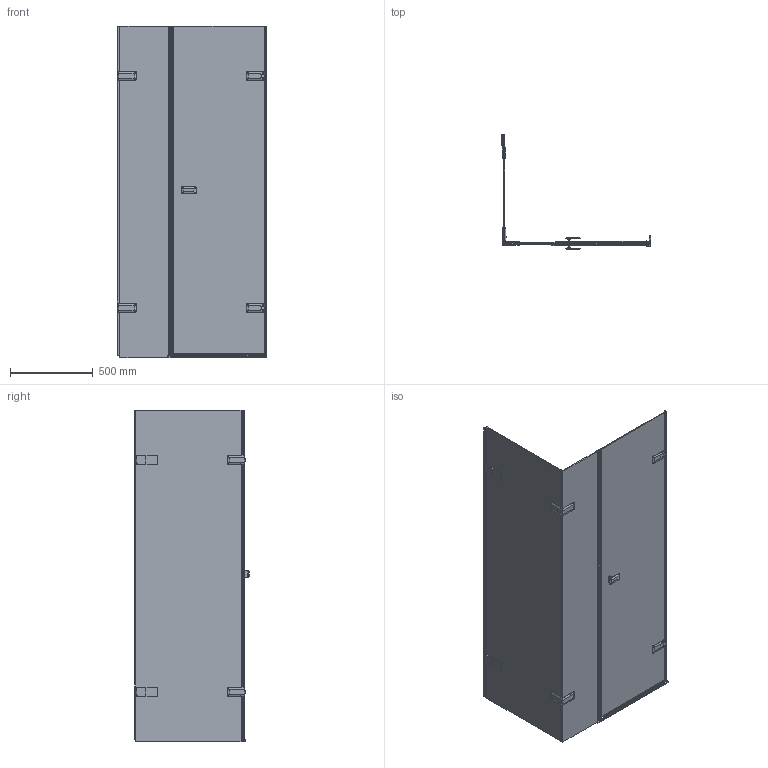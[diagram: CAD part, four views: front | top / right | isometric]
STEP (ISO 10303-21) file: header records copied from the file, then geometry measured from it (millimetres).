
FILE_DESCRIPTION(/* description */ (''),/* implementation_level */ '2;1');
FILE_NAME(/* name */ 'E:\Работа\Сергей\Душевые кабинки\! Работа\36\TREND SQUARE GK-883PGS1-2722\TREND SQUARE GK-883PGS1-2722 правая модель\TREND SQUARE GK-883PGS1-2722 ПРАВАЯ-3D.stp',/* time_stamp */ '2018-02-16T21:42:47+03:00',/* author */ ('PC'),/* organization */ (''),/* preprocessor_version */ 'ST-DEVELOPER v15.2',/* originating_system */ 'Autodesk Inventor 2014',/* authorisation */ '');
FILE_SCHEMA (('AUTOMOTIVE_DESIGN { 1 0 10303 214 3 1 1 }'));
Length unit declared in the file: millimetre
Products named in the file (1): TREND SQUARE GK-883PGS1-2722 \X2\041F0420041004120410042F
\X0\-3D
Bounding box: 903.6 x 689.96 x 2001 mm (x, y, z)
Volume: 19571729.6 mm3; surface area: 6674216.9 mm2
Topology: 3 solids, 3 shells, 1031 faces, 2689 edges, 1644 vertices
Faces by surface type: plane 615, cylinder 280, bspline 82, torus 41, sphere 13
Full cylindrical faces by diameter (mm): 12 x2
Entity records: 36161 total; most frequent: CARTESIAN_POINT 10104, ORIENTED_EDGE 5268, DIRECTION 5036, EDGE_CURVE 2634, LINE 1840, VECTOR 1840, VERTEX_POINT 1644, AXIS2_PLACEMENT_3D 1598
